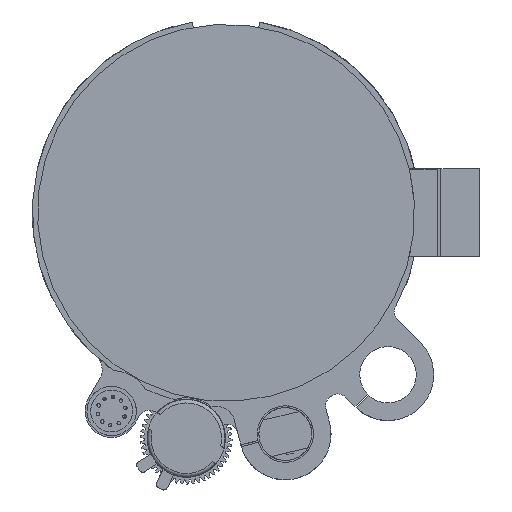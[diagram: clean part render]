
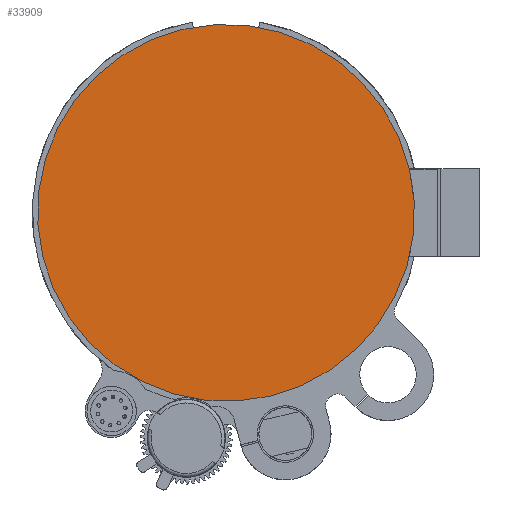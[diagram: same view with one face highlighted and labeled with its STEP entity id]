
A CAD part, left-side view. The second image highlights one B-rep face of the part: STEP entity #33909.
In plain terms, the highlighted planar face has unit normal (-1, 0, 0).
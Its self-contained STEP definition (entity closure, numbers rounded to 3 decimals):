
#33886=CARTESIAN_POINT('',(-27.588,-14.88,29.551));
#33887=VERTEX_POINT('',#33886);
#33888=CARTESIAN_POINT('',(-27.588,29.719,0.));
#33889=DIRECTION('',(-1.,0.,0.));
#33890=DIRECTION('',(0.,-0.834,0.552));
#33891=AXIS2_PLACEMENT_3D('',#33888,#33889,#33890);
#33892=CIRCLE('',#33891,53.5);
#33893=EDGE_CURVE('',#33887,#33887,#33892,.T.);
#33901=CARTESIAN_POINT('',(-27.588,-9.253,25.822));
#33902=DIRECTION('',(-1.0,0.0,0.0));
#33903=DIRECTION('',(0.0,0.552,0.834));
#33904=AXIS2_PLACEMENT_3D('',#33901,#33902,#33903);
#33905=PLANE('',#33904);
#33906=ORIENTED_EDGE('',*,*,#33893,.T.);
#33907=EDGE_LOOP('',(#33906));
#33908=FACE_OUTER_BOUND('',#33907,.T.);
#33909=ADVANCED_FACE('',(#33908),#33905,.T.);
